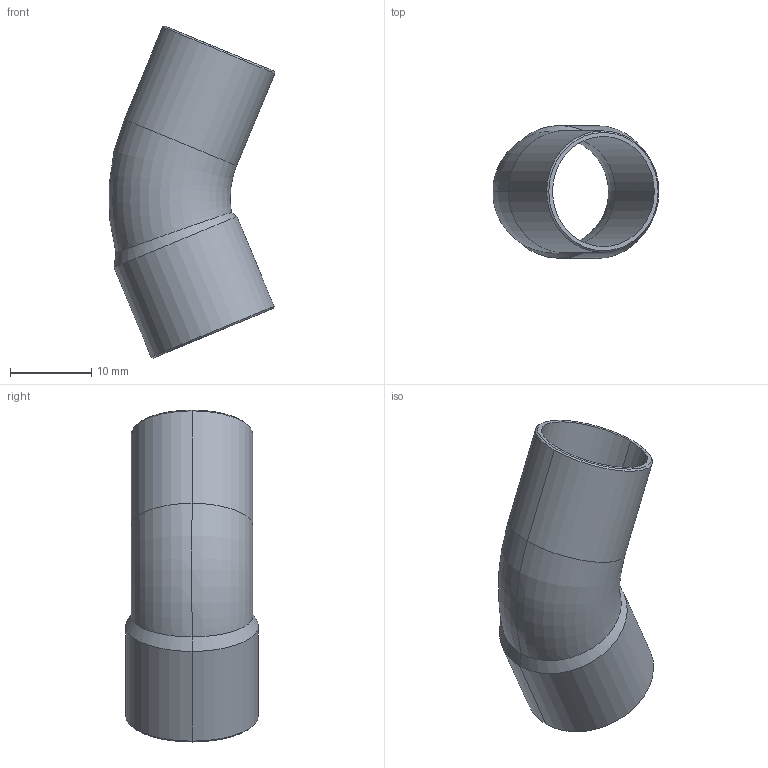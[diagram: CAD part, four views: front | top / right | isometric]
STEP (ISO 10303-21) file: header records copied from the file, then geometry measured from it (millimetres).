
FILE_DESCRIPTION((''),'2;1');
FILE_NAME('P:\Bouwmaten\z-maattekeningen 3D\5000\5040\1504015.stp','2005-10-05T11:05:21',('Kris'),(''),'Autodesk Inventor 8','Autodesk Inventor 8','');
FILE_SCHEMA(('AUTOMOTIVE_DESIGN { 1 0 10303 214 1 1 1 1 }'));
Length unit declared in the file: millimetre
Products named in the file (1): 1504015
Bounding box: 20.47 x 16.4 x 40.96 mm (x, y, z)
Volume: 1212.6 mm3; surface area: 3521.7 mm2
Topology: 1 solids, 1 shells, 24 faces, 50 edges, 28 vertices
Faces by surface type: cone 10, cylinder 8, torus 4, plane 2
Entity records: 729 total; most frequent: CARTESIAN_POINT 179, DIRECTION 124, ORIENTED_EDGE 100, AXIS2_PLACEMENT_3D 53, EDGE_CURVE 50, VERTEX_POINT 28, CIRCLE 28, EDGE_LOOP 26
